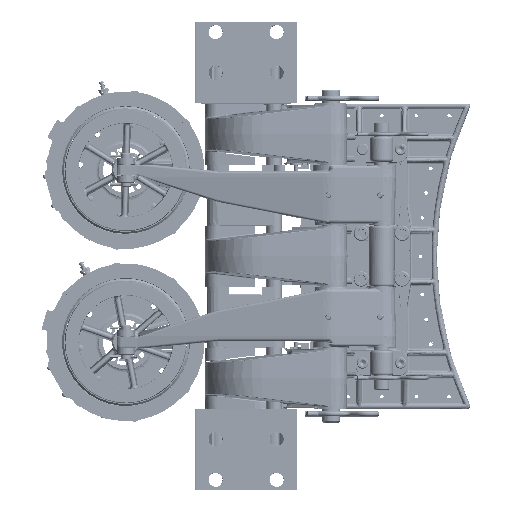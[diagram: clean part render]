
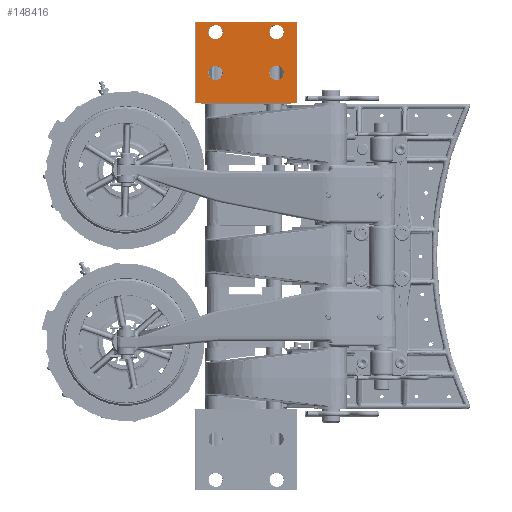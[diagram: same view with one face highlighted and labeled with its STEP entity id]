
A CAD part, top view. The second image highlights one B-rep face of the part: STEP entity #148416.
In plain terms, the highlighted planar face has unit normal (0, 0, 1).
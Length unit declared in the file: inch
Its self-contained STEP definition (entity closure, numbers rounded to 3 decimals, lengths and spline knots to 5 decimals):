
#4918 = EDGE_LOOP ( 'NONE', ( #13854, #269216 ) ) ;
#10145 = CARTESIAN_POINT ( 'NONE',  ( -1.44449, 9., 7.5 ) ) ;
#12334 = EDGE_CURVE ( 'NONE', #104762, #159956, #102171, .T. ) ;
#13854 = ORIENTED_EDGE ( 'NONE', *, *, #120907, .T. ) ;
#14118 = CARTESIAN_POINT ( 'NONE',  ( -4.09074, 9., 7.5 ) ) ;
#17690 = DIRECTION ( 'NONE',  ( 0., 0., -1. ) ) ;
#25094 = VERTEX_POINT ( 'NONE', #159840 ) ;
#27260 = AXIS2_PLACEMENT_3D ( 'NONE', #14118, #188968, #39221 ) ;
#30974 = FACE_BOUND ( 'NONE', #107970, .T. ) ;
#31441 = VECTOR ( 'NONE', #209880, 39.37008 ) ;
#35797 = VECTOR ( 'NONE', #316586, 39.37008 ) ;
#36313 = AXIS2_PLACEMENT_3D ( 'NONE', #71587, #246523, #96759 ) ;
#39221 = DIRECTION ( 'NONE',  ( -1., 0., 0. ) ) ;
#39287 = LINE ( 'NONE', #285239, #31441 ) ;
#41718 = AXIS2_PLACEMENT_3D ( 'NONE', #283446, #133761, #308625 ) ;
#46626 = FACE_BOUND ( 'NONE', #4918, .T. ) ;
#52435 = DIRECTION ( 'NONE',  ( 0., 0., -1. ) ) ;
#59399 = EDGE_CURVE ( 'NONE', #93577, #69039, #90497, .T. ) ;
#61454 = VERTEX_POINT ( 'NONE', #199982 ) ;
#63511 = AXIS2_PLACEMENT_3D ( 'NONE', #213792, #64071, #238970 ) ;
#64071 = DIRECTION ( 'NONE',  ( 0., 0., -1. ) ) ;
#69039 = VERTEX_POINT ( 'NONE', #97275 ) ;
#69658 = VERTEX_POINT ( 'NONE', #277059 ) ;
#70473 = CARTESIAN_POINT ( 'NONE',  ( -1.09074, 9., 7.5 ) ) ;
#70799 = DIRECTION ( 'NONE',  ( 0., 1., 0. ) ) ;
#71587 = CARTESIAN_POINT ( 'NONE',  ( -1.09074, 11., 7.5 ) ) ;
#77620 = ORIENTED_EDGE ( 'NONE', *, *, #247030, .T. ) ;
#82050 = CIRCLE ( 'NONE', #41718, 0.35375 ) ;
#82546 = CIRCLE ( 'NONE', #27260, 0.35375 ) ;
#87477 = CARTESIAN_POINT ( 'NONE',  ( -1.09074, 9., 7.5 ) ) ;
#90497 = CIRCLE ( 'NONE', #197782, 0.35375 ) ;
#93577 = VERTEX_POINT ( 'NONE', #10145 ) ;
#95645 = DIRECTION ( 'NONE',  ( -1., 0., 0. ) ) ;
#96759 = DIRECTION ( 'NONE',  ( -1., 0., 0. ) ) ;
#97275 = CARTESIAN_POINT ( 'NONE',  ( -0.73699, 9., 7.5 ) ) ;
#97437 = FACE_BOUND ( 'NONE', #118352, .T. ) ;
#98239 = CARTESIAN_POINT ( 'NONE',  ( -5.09074, 11.48, 7.5 ) ) ;
#102171 = LINE ( 'NONE', #266269, #35797 ) ;
#104762 = VERTEX_POINT ( 'NONE', #193051 ) ;
#106569 = CARTESIAN_POINT ( 'NONE',  ( -4.09074, 11., 7.5 ) ) ;
#107970 = EDGE_LOOP ( 'NONE', ( #175355, #297987 ) ) ;
#109092 = VERTEX_POINT ( 'NONE', #274764 ) ;
#110710 = EDGE_LOOP ( 'NONE', ( #281194, #205185, #254783, #158858 ) ) ;
#112614 = DIRECTION ( 'NONE',  ( -1., 0., 0. ) ) ;
#118352 = EDGE_LOOP ( 'NONE', ( #179786, #185168 ) ) ;
#120907 = EDGE_CURVE ( 'NONE', #109092, #283569, #267848, .T. ) ;
#122852 = EDGE_CURVE ( 'NONE', #25094, #69658, #291048, .T. ) ;
#124146 = EDGE_CURVE ( 'NONE', #283569, #109092, #82546, .T. ) ;
#126004 = VERTEX_POINT ( 'NONE', #253545 ) ;
#131647 = DIRECTION ( 'NONE',  ( -1., 0., 0. ) ) ;
#133518 = LINE ( 'NONE', #195445, #199979 ) ;
#133761 = DIRECTION ( 'NONE',  ( 0., 0., -1. ) ) ;
#137868 = CARTESIAN_POINT ( 'NONE',  ( -0.11074, 7.5, 7.5 ) ) ;
#148416 = ADVANCED_FACE ( 'NONE', ( #238338, #46626, #97437, #30974, #289096 ), #262956, .F. ) ;
#149576 = DIRECTION ( 'NONE',  ( -1., 0., 0. ) ) ;
#151619 = CIRCLE ( 'NONE', #257352, 0.35375 ) ;
#158858 = ORIENTED_EDGE ( 'NONE', *, *, #251219, .T. ) ;
#159840 = CARTESIAN_POINT ( 'NONE',  ( -3.73699, 11., 7.5 ) ) ;
#159956 = VERTEX_POINT ( 'NONE', #137868 ) ;
#165836 = CARTESIAN_POINT ( 'NONE',  ( -0.73699, 11., 7.5 ) ) ;
#167451 = CARTESIAN_POINT ( 'NONE',  ( -4.09074, 11., 7.5 ) ) ;
#170595 = EDGE_CURVE ( 'NONE', #61454, #104762, #39287, .T. ) ;
#173033 = VERTEX_POINT ( 'NONE', #165836 ) ;
#175355 = ORIENTED_EDGE ( 'NONE', *, *, #196320, .T. ) ;
#176567 = EDGE_LOOP ( 'NONE', ( #77620, #206876 ) ) ;
#179786 = ORIENTED_EDGE ( 'NONE', *, *, #59399, .T. ) ;
#184126 = AXIS2_PLACEMENT_3D ( 'NONE', #70473, #245420, #95645 ) ;
#185168 = ORIENTED_EDGE ( 'NONE', *, *, #253378, .T. ) ;
#187130 = AXIS2_PLACEMENT_3D ( 'NONE', #202161, #52435, #227253 ) ;
#188968 = DIRECTION ( 'NONE',  ( 0., 0., -1. ) ) ;
#189410 = LINE ( 'NONE', #98239, #314508 ) ;
#192507 = DIRECTION ( 'NONE',  ( -1., 0., 0. ) ) ;
#193051 = CARTESIAN_POINT ( 'NONE',  ( -5.07074, 7.5, 7.5 ) ) ;
#195445 = CARTESIAN_POINT ( 'NONE',  ( -0.11074, 11.5, 7.5 ) ) ;
#196320 = EDGE_CURVE ( 'NONE', #252041, #173033, #307227, .T. ) ;
#197782 = AXIS2_PLACEMENT_3D ( 'NONE', #87477, #262324, #112614 ) ;
#199979 = VECTOR ( 'NONE', #70799, 39.37008 ) ;
#199982 = CARTESIAN_POINT ( 'NONE',  ( -5.07074, 11.48, 7.5 ) ) ;
#200573 = AXIS2_PLACEMENT_3D ( 'NONE', #167451, #17690, #192507 ) ;
#202161 = CARTESIAN_POINT ( 'NONE',  ( -4.09074, 9., 7.5 ) ) ;
#205185 = ORIENTED_EDGE ( 'NONE', *, *, #170595, .T. ) ;
#206876 = ORIENTED_EDGE ( 'NONE', *, *, #122852, .T. ) ;
#209880 = DIRECTION ( 'NONE',  ( 0., -1., 0. ) ) ;
#213792 = CARTESIAN_POINT ( 'NONE',  ( -5.09074, 11.5, 7.5 ) ) ;
#227253 = DIRECTION ( 'NONE',  ( -1., 0., 0. ) ) ;
#238338 = FACE_BOUND ( 'NONE', #176567, .T. ) ;
#238970 = DIRECTION ( 'NONE',  ( -1., 0., 0. ) ) ;
#245420 = DIRECTION ( 'NONE',  ( 0., 0., -1. ) ) ;
#246523 = DIRECTION ( 'NONE',  ( 0., 0., -1. ) ) ;
#247030 = EDGE_CURVE ( 'NONE', #69658, #25094, #151619, .T. ) ;
#251219 = EDGE_CURVE ( 'NONE', #159956, #126004, #133518, .T. ) ;
#252041 = VERTEX_POINT ( 'NONE', #307423 ) ;
#253378 = EDGE_CURVE ( 'NONE', #69039, #93577, #301406, .T. ) ;
#253545 = CARTESIAN_POINT ( 'NONE',  ( -0.11074, 11.48, 7.5 ) ) ;
#254783 = ORIENTED_EDGE ( 'NONE', *, *, #12334, .T. ) ;
#257352 = AXIS2_PLACEMENT_3D ( 'NONE', #106569, #281348, #131647 ) ;
#262324 = DIRECTION ( 'NONE',  ( 0., 0., -1. ) ) ;
#262956 = PLANE ( 'NONE',  #63511 ) ;
#266269 = CARTESIAN_POINT ( 'NONE',  ( -5.09074, 7.5, 7.5 ) ) ;
#267848 = CIRCLE ( 'NONE', #187130, 0.35375 ) ;
#269216 = ORIENTED_EDGE ( 'NONE', *, *, #124146, .T. ) ;
#271722 = CARTESIAN_POINT ( 'NONE',  ( -3.73699, 9., 7.5 ) ) ;
#274764 = CARTESIAN_POINT ( 'NONE',  ( -4.44449, 9., 7.5 ) ) ;
#277059 = CARTESIAN_POINT ( 'NONE',  ( -4.44449, 11., 7.5 ) ) ;
#281194 = ORIENTED_EDGE ( 'NONE', *, *, #308834, .T. ) ;
#281348 = DIRECTION ( 'NONE',  ( 0., 0., -1. ) ) ;
#283446 = CARTESIAN_POINT ( 'NONE',  ( -1.09074, 11., 7.5 ) ) ;
#283569 = VERTEX_POINT ( 'NONE', #271722 ) ;
#285239 = CARTESIAN_POINT ( 'NONE',  ( -5.07074, 11.5, 7.5 ) ) ;
#289096 = FACE_OUTER_BOUND ( 'NONE', #110710, .T. ) ;
#291048 = CIRCLE ( 'NONE', #200573, 0.35375 ) ;
#297987 = ORIENTED_EDGE ( 'NONE', *, *, #321311, .T. ) ;
#301406 = CIRCLE ( 'NONE', #184126, 0.35375 ) ;
#307227 = CIRCLE ( 'NONE', #36313, 0.35375 ) ;
#307423 = CARTESIAN_POINT ( 'NONE',  ( -1.44449, 11., 7.5 ) ) ;
#308625 = DIRECTION ( 'NONE',  ( -1., 0., 0. ) ) ;
#308834 = EDGE_CURVE ( 'NONE', #126004, #61454, #189410, .T. ) ;
#314508 = VECTOR ( 'NONE', #149576, 39.37008 ) ;
#316586 = DIRECTION ( 'NONE',  ( 1., 0., 0. ) ) ;
#321311 = EDGE_CURVE ( 'NONE', #173033, #252041, #82050, .T. ) ;
